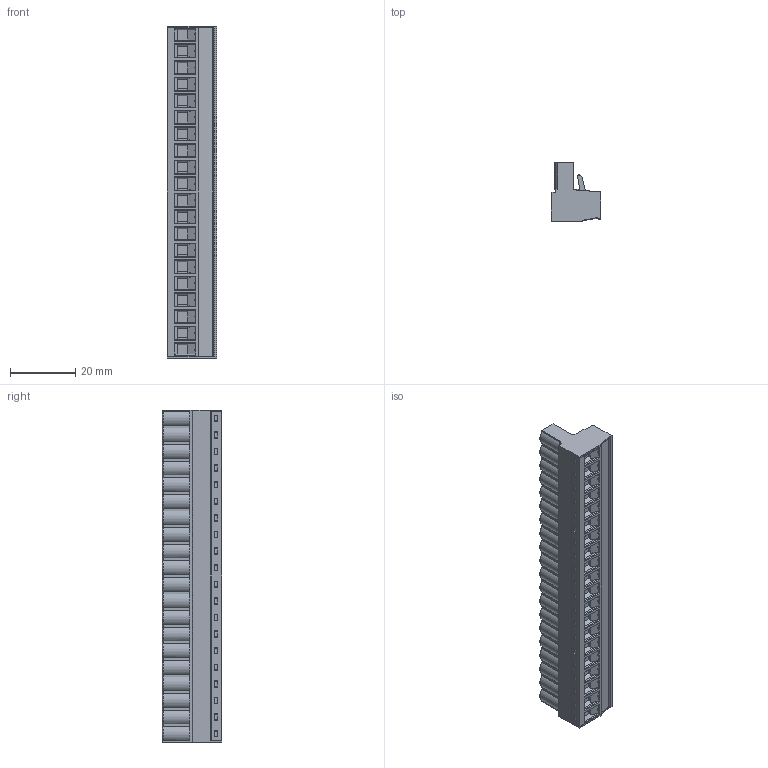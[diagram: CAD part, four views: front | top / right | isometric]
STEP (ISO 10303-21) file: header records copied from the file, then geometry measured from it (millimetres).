
FILE_DESCRIPTION (( 'STEP AP203' ), '1' );
FILE_NAME ('BR8F1-20.STEP', '2020-03-04T02:26:27', ( '' ), ( '' ), 'SwSTEP 2.0', 'SolidWorks 2019', '' );
FILE_SCHEMA (( 'CONFIG_CONTROL_DESIGN' ));
Length unit declared in the file: millimetre
Products named in the file (1): BR8F1-20
Bounding box: 15.05 x 18.1 x 101.6 mm (x, y, z)
Volume: 16119 mm3; surface area: 13166.9 mm2
Topology: 1 solids, 1 shells, 2575 faces, 6841 edges, 4388 vertices
Faces by surface type: plane 1573, cylinder 642, cone 160, torus 120, sphere 80
Entity records: 81214 total; most frequent: CARTESIAN_POINT 16463, ORIENTED_EDGE 13682, DIRECTION 13163, EDGE_CURVE 6841, LINE 4947, VECTOR 4947, VERTEX_POINT 4388, AXIS2_PLACEMENT_3D 4108
